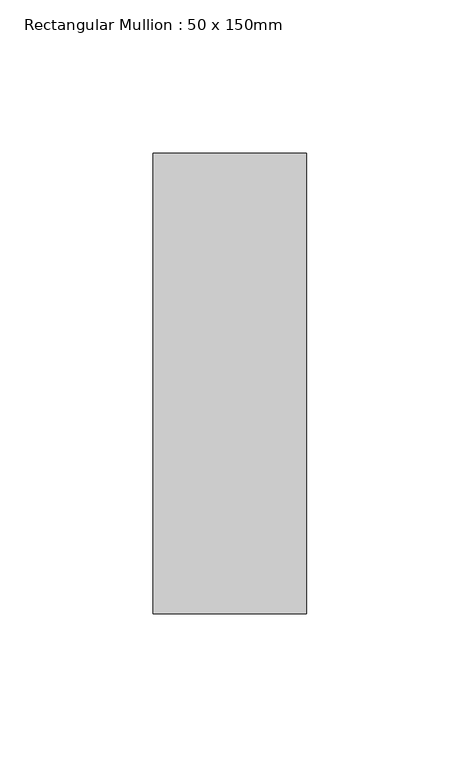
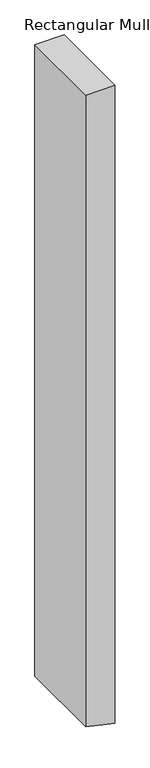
"""IFC4 building model written with IfcOpenShell, lengths in millimetres: member geometry, Rectangular Mullion : 50 x 150mm."""

from ifc_helpers import new_model, si_unit, frame, origin, place, context, project, spatial, polyline, outline, extrude, source, transform, mapped, element, save


def rectangular_mullion_50_x_150mm_53027c74(model_context):
    return source(origin(), model_context, "Body", "SweptSolid", [
        extrude(outline(polyline([(0.0, 25.0), (0.0, -25.0), (-1140.1394507, -25.0), (-1148.2682827, 11.0099035), (-1151.4263902, 25.0), (0.0, 25.0)])), frame((0.0, -75.0, 0.0), z_axis=(0.0, 1.0, 0.0), x_axis=(0.0, 0.0, 1.0)), (0.0, 0.0, 1.0), 150.0),
    ])


if __name__ == "__main__":
    model = new_model("IFC4")
    model_context = context("Model", 3, world=origin())
    ifc_project = project(units=[si_unit("LENGTHUNIT", "METRE", prefix="MILLI")], contexts=[model_context])
    site = spatial("IfcSite", under=ifc_project)
    building = spatial("IfcBuilding", under=site)
    placement = place(None, origin())
    rectangular_mullion_50_x_150mm_shape = rectangular_mullion_50_x_150mm_53027c74(model_context)
    element("IfcMember", 1, ObjectType="Rectangular Mullion : 50 x 150mm", at=placement, inside=building, context=model_context, shape_type="MappedRepresentation", body=[
        mapped(rectangular_mullion_50_x_150mm_shape, transform((0.0, 0.0, 0.0), x_axis=(1.0, 0.0, 0.0), y_axis=(0.0, 1.0, 0.0), z_axis=(0.0, 0.0, 1.0))),
    ])
    save(model, "model.ifc")
